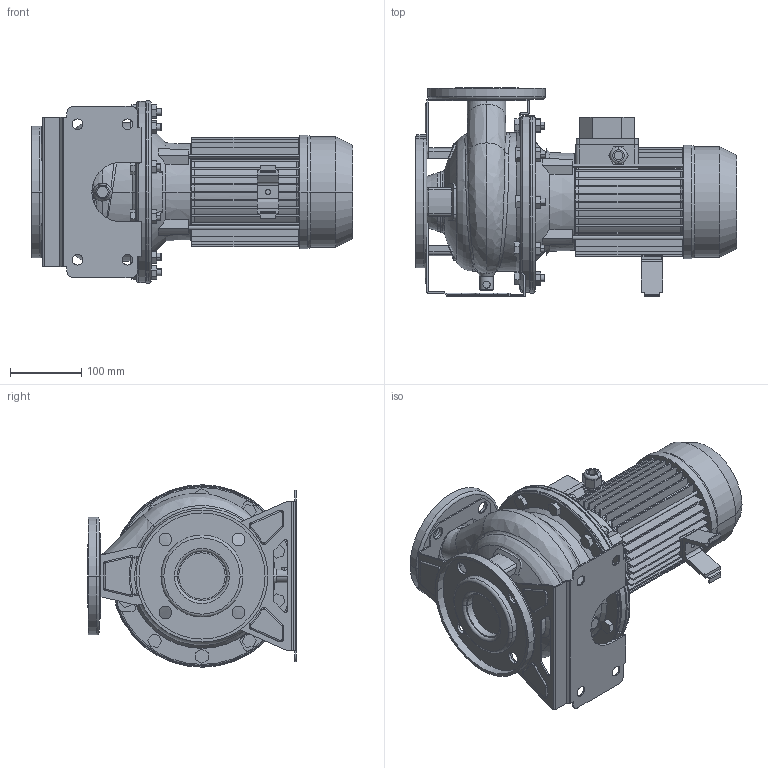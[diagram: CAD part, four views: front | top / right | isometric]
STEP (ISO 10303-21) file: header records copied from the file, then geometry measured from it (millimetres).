
FILE_DESCRIPTION((''),'2;1');
FILE_NAME('3M_50-125_2_2_IE3_ASM','2016-09-16T',('rosa'),('"Ebara Pumps Europe +39.444.706811"'),'PRO/ENGINEER BY PARAMETRIC TECHNOLOGY CORPORATION, 2012130','PRO/ENGINEER BY PARAMETRIC TECHNOLOGY CORPORATION, 2012130','');
FILE_SCHEMA(('AUTOMOTIVE_DESIGN { 1 0 10303 214 1 1 1 1 }'));
Length unit declared in the file: millimetre
Products named in the file (12): CORPO_50-125_AF0; ASP_50-125; FLANGIA_DIN_65; MAND_50-125; FLANGIA_DIN_50; BASE_3M_50-125; CORPO_SALDATO_50-125_ASM; 80741; MEC_80X130_IE3; SOSTEGNO_72004; 72015; 3M_50-125_2_2_IE3_ASM
Assembly tree (11 placements, depth 3):
  3M_50-125_2_2_IE3_ASM
    CORPO_SALDATO_50-125_ASM
      CORPO_50-125_AF0
      ASP_50-125
      FLANGIA_DIN_65
      MAND_50-125
      FLANGIA_DIN_50
      BASE_3M_50-125
    80741
    MEC_80X130_IE3
    SOSTEGNO_72004
    72015
Bounding box: 451 x 292 x 256 mm (x, y, z)
Volume: 7878087.8 mm3; surface area: 1044487 mm2
Topology: 13 solids, 13 shells, 1148 faces, 2920 edges, 1861 vertices
Faces by surface type: plane 577, cylinder 354, cone 96, torus 68, bspline 47, sphere 6
Entity records: 50426 total; most frequent: CARTESIAN_POINT 11352, DIRECTION 5992, ORIENTED_EDGE 5840, EDGE_CURVE 2920, PRESENTATION_STYLE_ASSIGNMENT 2848, STYLED_ITEM 2848, CURVE_STYLE 2836, AXIS2_PLACEMENT_3D 2213
